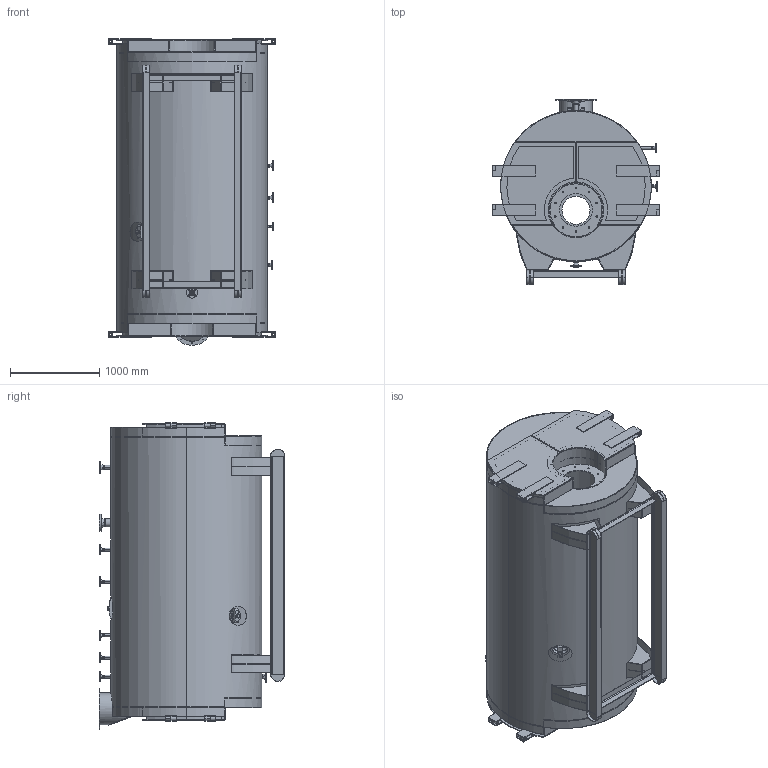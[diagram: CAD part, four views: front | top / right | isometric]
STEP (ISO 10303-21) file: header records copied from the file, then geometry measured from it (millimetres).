
FILE_DESCRIPTION (( 'STEP AP214' ), '1' );
FILE_NAME ('1000kW.STEP', '2024-05-06T05:49:19', ( '' ), ( '' ), 'SwSTEP 2.0', 'SolidWorks 2022', '' );
FILE_SCHEMA (( 'AUTOMOTIVE_DESIGN' ));
Length unit declared in the file: millimetre
Products named in the file (59): Saddle; Headhole assy; FL Door and Hing; NozzlePipe(3(40); FD7; head 1; hand 1; 1.5''''(80) for N8; U plate; hand 3; FD15; 1''''(80); pipe 0.5''''(80); Front Door (Right); IPN; FD6; 1''''(80) for N7; welding neck flange_WNeck Flange 150-NPS3; Cover; 1.5''''(80); Rear Door; Front Door (left); Rear Door (left); welding neck flange_WNeck Flange 150-NPS0.5; welding neck flange_WNeck Flange 150-NPS1.5; pipe1.5''''(80); Front Door; FD1; 80-80-6; pipe1''''(80) for N7; 3''''(40); Rear Door (Right); Shell; pipe 1.5''''(80) for N8; hand 2; hex bolt gradeab_din_PreviewCfg; 1000kW; pipe 1''''(80); 0.5''''(80); head 2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
Assembly tree (98 placements, depth 5):
  1000kW
    Shell
    Saddle  x4
    IPN
      IPN160  x2
      U plate  x4
      mid U plate  x4
    80-80-6  x2
    0.5''''(80)
      welding neck flange_WNeck Flange 150-NPS0.5
      pipe 0.5''''(80)
    1''''(80)  x7
      welding neck flange_WNeck Flange 150-NPS1
      pipe 1''''(80)
    1.5''''(80)
      welding neck flange_WNeck Flange 150-NPS1.5
      pipe1.5''''(80)
    3''''(40)
      welding neck flange_WNeck Flange 150-NPS3
      NozzlePipe(3(40)
    Headhole assy
      head 2
      head 1  x2
      head 3
      hex bolt gradeab_din_PreviewCfg  x2
    Handdhole assy
      hand 2
      hand 1
      hand 3
      hex bolt gradeab_din_PreviewCfg
    1.5''''(80) for N8
      welding neck flange_WNeck Flange 150-NPS1.5
      pipe 1.5''''(80) for N8
    1''''(80) for N7
      welding neck flange_WNeck Flange 150-NPS1
      pipe1''''(80) for N7
    Front Door
      FD1
      FD2
      Front Door (left)
        FL Door and Hing
          FD15  x4
          FD6
          FD7
        Front Door (left)
      Front Door (Right)
        FL Door and Hing
          FD15  x4
          FD6
          FD7
        Front Door (Right)
    Rear Door
      RD1
      RD2
      Rear Door (left)
        FL Door and Hing
          FD15  x4
          FD6
          FD7
        Rear Door (left)
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Bounding box: 1860 x 2076 x 3430 mm (x, y, z)
Volume: 461313911.5 mm3; surface area: 97984445.1 mm2
Topology: 135 solids, 135 shells, 1614 faces, 3867 edges, 2520 vertices
Faces by surface type: plane 782, cylinder 725, bspline 53, cone 48, torus 6
Full cylindrical faces by diameter (mm): 348 x1, 360 x1
Entity records: 42546 total; most frequent: CARTESIAN_POINT 14194, DIRECTION 5560, ORIENTED_EDGE 5140, EDGE_CURVE 2570, AXIS2_PLACEMENT_3D 2064, VERTEX_POINT 1678, VECTOR 1432, LINE 1432
